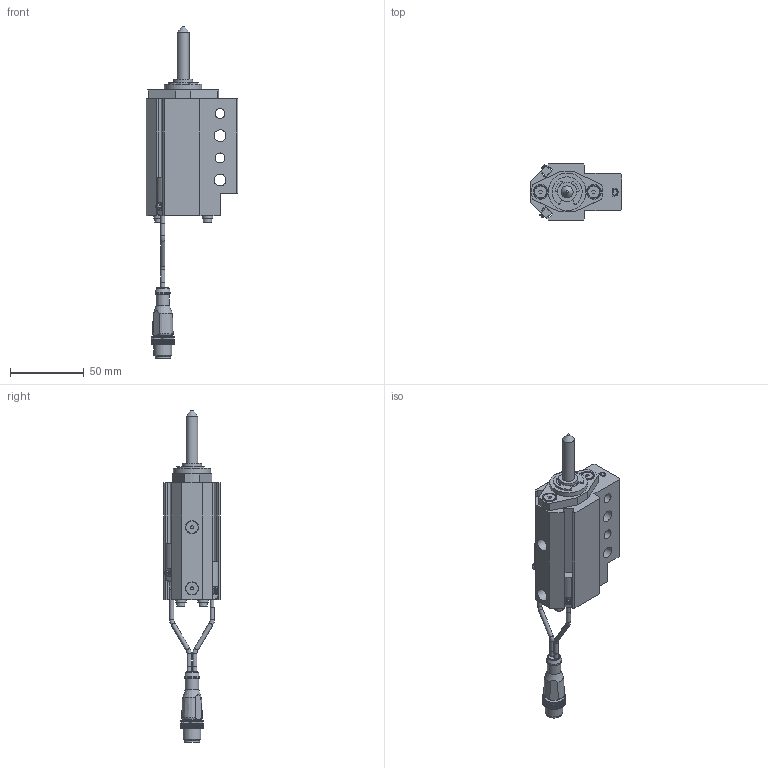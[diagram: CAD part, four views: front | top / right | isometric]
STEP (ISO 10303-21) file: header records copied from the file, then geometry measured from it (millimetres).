
FILE_DESCRIPTION(/* description */ ('NAAMS FLOATING MICRO PIN'),/* implementation_level */ '2;1');
FILE_NAME(/* name */ 'C:\Vault Workspace\CAD\Welker\Shot Pin\NMP\NMP080032DANL3.stp',/* time_stamp */ '2021-01-27T08:44:00-05:00',/* author */ ('WELKER'),/* organization */ (''),/* preprocessor_version */ 'ST-DEVELOPER v18.1',/* originating_system */ 'Autodesk Inventor 2020',/* authorisation */ '');
FILE_SCHEMA (('AUTOMOTIVE_DESIGN { 1 0 10303 214 3 1 1 }'));
Length unit declared in the file: millimetre
Products named in the file (16): NMPL01; NMP L3 SWITCH; L3 Connector; L3 Sensor 1; L3 Sensor 2; L3 Sensor cable; L3 Sensor cable 2; M3X0.5-8 SHCS; NL3; NMPE06; NMPE03; NMPE05-DIA-LENGTH; 985432A218; NMPE01D-PORT; RMPE02; M5X5 SHOULDER
Assembly tree (22 placements, depth 3):
  NMPL01
    NMP L3 SWITCH
      L3 Connector
      L3 Sensor 1
      L3 Sensor 2
      L3 Sensor cable
      L3 Sensor cable 2
    M3X0.5-8 SHCS  x4
    NL3  x4
    NMPE06
    NMPE03
    NMPE05-DIA-LENGTH
    985432A218
    NMPE01D-PORT
    RMPE02
    M5X5 SHOULDER  x2
Bounding box: 62 x 38.1 x 224.73 mm (x, y, z)
Volume: 112521.3 mm3; surface area: 45449 mm2
Topology: 21 solids, 21 shells, 747 faces, 2022 edges, 1352 vertices
Faces by surface type: plane 548, cylinder 144, cone 31, torus 11, bspline 10, sphere 3
Full cylindrical faces by diameter (mm): 2 x2, 2.459 x4, 2.9 x10, 3 x5, 3.242 x2, 3.4 x4, 4 x2, 5 x6, 5.5 x4, 6.647 x2, 7 x4, 8 x3, 8.3 x2, 9 x3, 10 x3, 10.4 x1, 10.5 x1, 12 x1, 13 x3, 16 x2, 19.05 x3, 21 x1, 22.5 x1, 23.672 x1, 24 x1, 25.4 x1, 25.5 x1, 26.5 x1, 28.677 x1, 29.21 x1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
Entity records: 22825 total; most frequent: CARTESIAN_POINT 4228, ORIENTED_EDGE 3742, DIRECTION 3699, EDGE_CURVE 1871, LINE 1375, VECTOR 1375, VERTEX_POINT 1257, AXIS2_PLACEMENT_3D 1162
